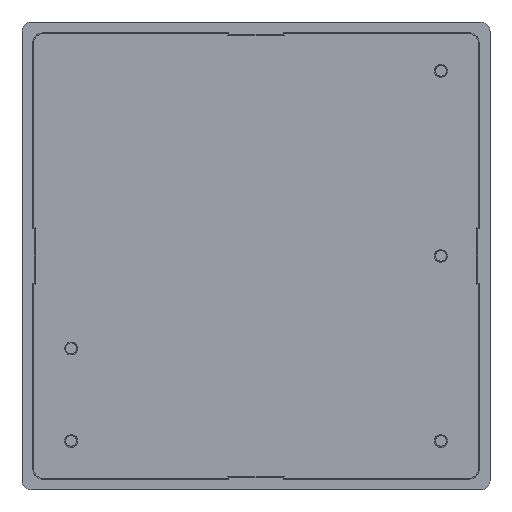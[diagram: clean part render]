
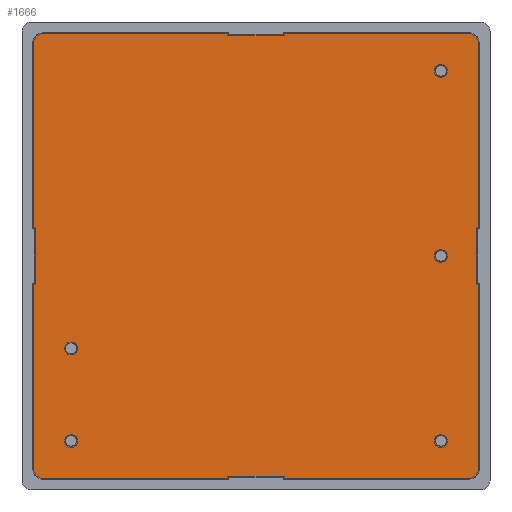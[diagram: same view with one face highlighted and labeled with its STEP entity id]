
A CAD part, top view. The second image highlights one B-rep face of the part: STEP entity #1666.
In plain terms, the highlighted planar face has unit normal (0, 0, 1).
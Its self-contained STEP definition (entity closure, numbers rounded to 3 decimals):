
#147=LINE('',#2610,#313);
#150=LINE('',#2616,#316);
#154=LINE('',#2623,#320);
#157=LINE('',#2631,#323);
#160=LINE('',#2637,#326);
#164=LINE('',#2644,#330);
#167=LINE('',#2652,#333);
#170=LINE('',#2658,#336);
#173=LINE('',#2664,#339);
#177=LINE('',#2673,#343);
#180=LINE('',#2679,#346);
#184=LINE('',#2686,#350);
#185=LINE('',#2689,#351);
#188=LINE('',#2695,#354);
#193=LINE('',#2704,#359);
#199=LINE('',#2732,#365);
#203=LINE('',#2741,#369);
#204=LINE('',#2746,#370);
#207=LINE('',#2755,#373);
#208=LINE('',#2772,#374);
#313=VECTOR('',#2139,3.1);
#316=VECTOR('',#2144,0.1);
#320=VECTOR('',#2150,0.1);
#323=VECTOR('',#2155,3.1);
#326=VECTOR('',#2160,0.1);
#330=VECTOR('',#2166,0.1);
#333=VECTOR('',#2171,0.1);
#336=VECTOR('',#2176,3.1);
#339=VECTOR('',#2181,0.1);
#343=VECTOR('',#2187,3.1);
#346=VECTOR('',#2192,0.1);
#350=VECTOR('',#2198,0.1);
#351=VECTOR('',#2201,10.15);
#354=VECTOR('',#2206,10.15);
#359=VECTOR('',#2213,10.15);
#365=VECTOR('',#2241,10.15);
#369=VECTOR('',#2251,10.15);
#370=VECTOR('',#2258,10.15);
#373=VECTOR('',#2271,10.15);
#374=VECTOR('',#2294,10.15);
#434=PLANE('',#1821);
#457=FACE_BOUND('',#670,.T.);
#458=FACE_BOUND('',#671,.T.);
#459=FACE_BOUND('',#672,.T.);
#460=FACE_BOUND('',#673,.T.);
#461=FACE_BOUND('',#674,.T.);
#554=FACE_OUTER_BOUND('',#669,.T.);
#669=EDGE_LOOP('',(#1516,#1517,#1518,#1519,#1520,#1521,#1522,#1523,#1524,
#1525,#1526,#1527,#1528,#1529,#1530,#1531,#1532,#1533,#1534,#1535,#1536,
#1537,#1538,#1539));
#670=EDGE_LOOP('',(#1540));
#671=EDGE_LOOP('',(#1541));
#672=EDGE_LOOP('',(#1542));
#673=EDGE_LOOP('',(#1543));
#674=EDGE_LOOP('',(#1544));
#712=CIRCLE('',#1800,0.5);
#713=CIRCLE('',#1803,0.5);
#714=CIRCLE('',#1806,0.5);
#715=CIRCLE('',#1808,0.5);
#716=CIRCLE('',#1811,0.35);
#717=CIRCLE('',#1813,0.35);
#718=CIRCLE('',#1815,0.35);
#719=CIRCLE('',#1817,0.35);
#720=CIRCLE('',#1819,0.35);
#817=VERTEX_POINT('',#2607);
#818=VERTEX_POINT('',#2609);
#820=VERTEX_POINT('',#2615);
#822=VERTEX_POINT('',#2621);
#825=VERTEX_POINT('',#2628);
#826=VERTEX_POINT('',#2630);
#828=VERTEX_POINT('',#2636);
#830=VERTEX_POINT('',#2642);
#833=VERTEX_POINT('',#2649);
#834=VERTEX_POINT('',#2651);
#836=VERTEX_POINT('',#2657);
#838=VERTEX_POINT('',#2663);
#841=VERTEX_POINT('',#2670);
#842=VERTEX_POINT('',#2672);
#844=VERTEX_POINT('',#2678);
#846=VERTEX_POINT('',#2684);
#847=VERTEX_POINT('',#2688);
#849=VERTEX_POINT('',#2694);
#852=VERTEX_POINT('',#2702);
#863=VERTEX_POINT('',#2731);
#864=VERTEX_POINT('',#2735);
#865=VERTEX_POINT('',#2739);
#866=VERTEX_POINT('',#2745);
#867=VERTEX_POINT('',#2751);
#868=VERTEX_POINT('',#2757);
#869=VERTEX_POINT('',#2760);
#870=VERTEX_POINT('',#2763);
#871=VERTEX_POINT('',#2766);
#872=VERTEX_POINT('',#2769);
#1017=EDGE_CURVE('',#818,#817,#147,.T.);
#1020=EDGE_CURVE('',#820,#818,#150,.T.);
#1024=EDGE_CURVE('',#817,#822,#154,.T.);
#1027=EDGE_CURVE('',#826,#825,#157,.T.);
#1030=EDGE_CURVE('',#828,#826,#160,.T.);
#1034=EDGE_CURVE('',#825,#830,#164,.T.);
#1037=EDGE_CURVE('',#834,#833,#167,.T.);
#1040=EDGE_CURVE('',#836,#834,#170,.T.);
#1043=EDGE_CURVE('',#838,#836,#173,.T.);
#1047=EDGE_CURVE('',#842,#841,#177,.T.);
#1050=EDGE_CURVE('',#844,#842,#180,.T.);
#1054=EDGE_CURVE('',#841,#846,#184,.T.);
#1055=EDGE_CURVE('',#820,#847,#185,.T.);
#1058=EDGE_CURVE('',#828,#849,#188,.T.);
#1063=EDGE_CURVE('',#852,#833,#193,.T.);
#1078=EDGE_CURVE('',#844,#863,#199,.T.);
#1080=EDGE_CURVE('',#849,#864,#712,.T.);
#1083=EDGE_CURVE('',#865,#830,#203,.T.);
#1084=EDGE_CURVE('',#847,#852,#713,.T.);
#1085=EDGE_CURVE('',#838,#866,#204,.T.);
#1087=EDGE_CURVE('',#866,#865,#714,.T.);
#1088=EDGE_CURVE('',#863,#867,#715,.T.);
#1090=EDGE_CURVE('',#867,#822,#207,.T.);
#1091=EDGE_CURVE('',#868,#868,#716,.T.);
#1092=EDGE_CURVE('',#869,#869,#717,.T.);
#1093=EDGE_CURVE('',#870,#870,#718,.T.);
#1094=EDGE_CURVE('',#871,#871,#719,.T.);
#1095=EDGE_CURVE('',#872,#872,#720,.T.);
#1096=EDGE_CURVE('',#864,#846,#208,.T.);
#1516=ORIENTED_EDGE('',*,*,#1024,.T.);
#1517=ORIENTED_EDGE('',*,*,#1090,.F.);
#1518=ORIENTED_EDGE('',*,*,#1088,.F.);
#1519=ORIENTED_EDGE('',*,*,#1078,.F.);
#1520=ORIENTED_EDGE('',*,*,#1050,.T.);
#1521=ORIENTED_EDGE('',*,*,#1047,.T.);
#1522=ORIENTED_EDGE('',*,*,#1054,.T.);
#1523=ORIENTED_EDGE('',*,*,#1096,.F.);
#1524=ORIENTED_EDGE('',*,*,#1080,.F.);
#1525=ORIENTED_EDGE('',*,*,#1058,.F.);
#1526=ORIENTED_EDGE('',*,*,#1030,.T.);
#1527=ORIENTED_EDGE('',*,*,#1027,.T.);
#1528=ORIENTED_EDGE('',*,*,#1034,.T.);
#1529=ORIENTED_EDGE('',*,*,#1083,.F.);
#1530=ORIENTED_EDGE('',*,*,#1087,.F.);
#1531=ORIENTED_EDGE('',*,*,#1085,.F.);
#1532=ORIENTED_EDGE('',*,*,#1043,.T.);
#1533=ORIENTED_EDGE('',*,*,#1040,.T.);
#1534=ORIENTED_EDGE('',*,*,#1037,.T.);
#1535=ORIENTED_EDGE('',*,*,#1063,.F.);
#1536=ORIENTED_EDGE('',*,*,#1084,.F.);
#1537=ORIENTED_EDGE('',*,*,#1055,.F.);
#1538=ORIENTED_EDGE('',*,*,#1020,.T.);
#1539=ORIENTED_EDGE('',*,*,#1017,.T.);
#1540=ORIENTED_EDGE('',*,*,#1091,.T.);
#1541=ORIENTED_EDGE('',*,*,#1092,.T.);
#1542=ORIENTED_EDGE('',*,*,#1093,.T.);
#1543=ORIENTED_EDGE('',*,*,#1094,.T.);
#1544=ORIENTED_EDGE('',*,*,#1095,.T.);
#1666=ADVANCED_FACE('',(#554,#457,#458,#459,#460,#461),#434,.T.);
#1800=AXIS2_PLACEMENT_3D('',#2736,#2245,#2246);
#1803=AXIS2_PLACEMENT_3D('',#2743,#2254,#2255);
#1806=AXIS2_PLACEMENT_3D('',#2749,#2262,#2263);
#1808=AXIS2_PLACEMENT_3D('',#2752,#2266,#2267);
#1811=AXIS2_PLACEMENT_3D('',#2758,#2274,#2275);
#1813=AXIS2_PLACEMENT_3D('',#2761,#2278,#2279);
#1815=AXIS2_PLACEMENT_3D('',#2764,#2282,#2283);
#1817=AXIS2_PLACEMENT_3D('',#2767,#2286,#2287);
#1819=AXIS2_PLACEMENT_3D('',#2770,#2290,#2291);
#1821=AXIS2_PLACEMENT_3D('',#2773,#2295,#2296);
#2139=DIRECTION('',(0.,-1.,0.));
#2144=DIRECTION('',(1.,0.,0.));
#2150=DIRECTION('',(-1.,0.,0.));
#2155=DIRECTION('',(0.,1.,0.));
#2160=DIRECTION('',(-1.,0.,0.));
#2166=DIRECTION('',(1.,0.,0.));
#2171=DIRECTION('',(0.,1.,0.));
#2176=DIRECTION('',(-1.,0.,0.));
#2181=DIRECTION('',(0.,-1.,0.));
#2187=DIRECTION('',(1.,0.,0.));
#2192=DIRECTION('',(0.,1.,0.));
#2198=DIRECTION('',(0.,-1.,0.));
#2201=DIRECTION('',(0.,1.,0.));
#2206=DIRECTION('',(0.,-1.,0.));
#2213=DIRECTION('',(1.,0.,0.));
#2241=DIRECTION('',(-1.,0.,0.));
#2245=DIRECTION('center_axis',(0.,0.,-1.));
#2246=DIRECTION('ref_axis',(0.707,-0.707,0.));
#2251=DIRECTION('',(0.,-1.,0.));
#2254=DIRECTION('center_axis',(0.,0.,-1.));
#2255=DIRECTION('ref_axis',(-0.707,0.707,0.));
#2258=DIRECTION('',(1.,0.,0.));
#2262=DIRECTION('center_axis',(0.,0.,-1.));
#2263=DIRECTION('ref_axis',(0.707,0.707,0.));
#2266=DIRECTION('center_axis',(0.,0.,-1.));
#2267=DIRECTION('ref_axis',(-0.707,-0.707,0.));
#2271=DIRECTION('',(0.,1.,0.));
#2274=DIRECTION('center_axis',(0.,0.,-1.));
#2275=DIRECTION('ref_axis',(-1.,0.,0.));
#2278=DIRECTION('center_axis',(0.,0.,-1.));
#2279=DIRECTION('ref_axis',(-1.,0.,0.));
#2282=DIRECTION('center_axis',(0.,0.,-1.));
#2283=DIRECTION('ref_axis',(-1.,0.,0.));
#2286=DIRECTION('center_axis',(0.,0.,-1.));
#2287=DIRECTION('ref_axis',(-1.,0.,0.));
#2290=DIRECTION('center_axis',(0.,0.,-1.));
#2291=DIRECTION('ref_axis',(-1.,0.,0.));
#2294=DIRECTION('',(-1.,0.,0.));
#2295=DIRECTION('center_axis',(0.,0.,1.));
#2296=DIRECTION('ref_axis',(1.,0.,0.));
#2607=CARTESIAN_POINT('',(-12.1,-1.55,0.5));
#2609=CARTESIAN_POINT('',(-12.1,1.55,0.5));
#2610=CARTESIAN_POINT('',(-12.1,0.775,0.5));
#2615=CARTESIAN_POINT('',(-12.2,1.55,0.5));
#2616=CARTESIAN_POINT('',(-6.1,1.55,0.5));
#2621=CARTESIAN_POINT('',(-12.2,-1.55,0.5));
#2623=CARTESIAN_POINT('',(-6.05,-1.55,0.5));
#2628=CARTESIAN_POINT('',(12.1,1.55,0.5));
#2630=CARTESIAN_POINT('',(12.1,-1.55,0.5));
#2631=CARTESIAN_POINT('',(12.1,-0.775,0.5));
#2636=CARTESIAN_POINT('',(12.2,-1.55,0.5));
#2637=CARTESIAN_POINT('',(6.1,-1.55,0.5));
#2642=CARTESIAN_POINT('',(12.2,1.55,0.5));
#2644=CARTESIAN_POINT('',(6.05,1.55,0.5));
#2649=CARTESIAN_POINT('',(-1.55,12.2,0.5));
#2651=CARTESIAN_POINT('',(-1.55,12.1,0.5));
#2652=CARTESIAN_POINT('',(-1.55,6.05,0.5));
#2657=CARTESIAN_POINT('',(1.55,12.1,0.5));
#2658=CARTESIAN_POINT('',(0.775,12.1,0.5));
#2663=CARTESIAN_POINT('',(1.55,12.2,0.5));
#2664=CARTESIAN_POINT('',(1.55,6.1,0.5));
#2670=CARTESIAN_POINT('',(1.55,-12.1,0.5));
#2672=CARTESIAN_POINT('',(-1.55,-12.1,0.5));
#2673=CARTESIAN_POINT('',(-0.775,-12.1,0.5));
#2678=CARTESIAN_POINT('',(-1.55,-12.2,0.5));
#2679=CARTESIAN_POINT('',(-1.55,-6.1,0.5));
#2684=CARTESIAN_POINT('',(1.55,-12.2,0.5));
#2686=CARTESIAN_POINT('',(1.55,-6.05,0.5));
#2688=CARTESIAN_POINT('',(-12.2,11.7,0.5));
#2689=CARTESIAN_POINT('',(-12.2,-12.2,0.5));
#2694=CARTESIAN_POINT('',(12.2,-11.7,0.5));
#2695=CARTESIAN_POINT('',(12.2,12.2,0.5));
#2702=CARTESIAN_POINT('',(-11.7,12.2,0.5));
#2704=CARTESIAN_POINT('',(-12.2,12.2,0.5));
#2731=CARTESIAN_POINT('',(-11.7,-12.2,0.5));
#2732=CARTESIAN_POINT('',(12.2,-12.2,0.5));
#2735=CARTESIAN_POINT('',(11.7,-12.2,0.5));
#2736=CARTESIAN_POINT('Origin',(11.7,-11.7,0.5));
#2739=CARTESIAN_POINT('',(12.2,11.7,0.5));
#2741=CARTESIAN_POINT('',(12.2,12.2,0.5));
#2743=CARTESIAN_POINT('Origin',(-11.7,11.7,0.5));
#2745=CARTESIAN_POINT('',(11.7,12.2,0.5));
#2746=CARTESIAN_POINT('',(-12.2,12.2,0.5));
#2749=CARTESIAN_POINT('Origin',(11.7,11.7,0.5));
#2751=CARTESIAN_POINT('',(-12.2,-11.7,0.5));
#2752=CARTESIAN_POINT('Origin',(-11.7,-11.7,0.5));
#2755=CARTESIAN_POINT('',(-12.2,-12.2,0.5));
#2757=CARTESIAN_POINT('',(-9.8,-10.16,0.5));
#2758=CARTESIAN_POINT('Origin',(-10.15,-10.16,0.5));
#2760=CARTESIAN_POINT('',(10.5,0.,0.5));
#2761=CARTESIAN_POINT('Origin',(10.15,0.,0.5));
#2763=CARTESIAN_POINT('',(10.5,10.16,0.5));
#2764=CARTESIAN_POINT('Origin',(10.15,10.16,0.5));
#2766=CARTESIAN_POINT('',(10.5,-10.16,0.5));
#2767=CARTESIAN_POINT('Origin',(10.15,-10.16,0.5));
#2769=CARTESIAN_POINT('',(-9.8,-5.08,0.5));
#2770=CARTESIAN_POINT('Origin',(-10.15,-5.08,0.5));
#2772=CARTESIAN_POINT('',(12.2,-12.2,0.5));
#2773=CARTESIAN_POINT('Origin',(0.,0.,0.5));
